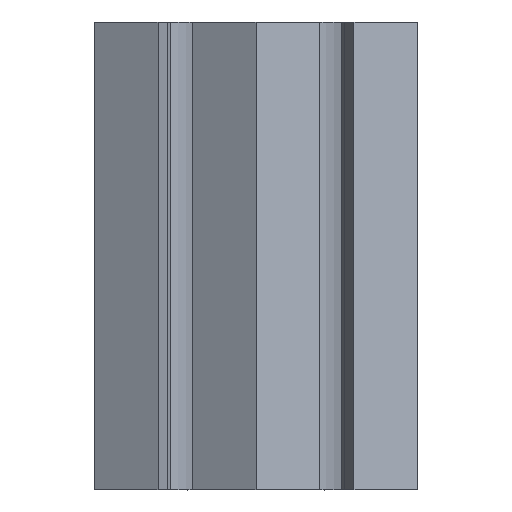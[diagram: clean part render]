
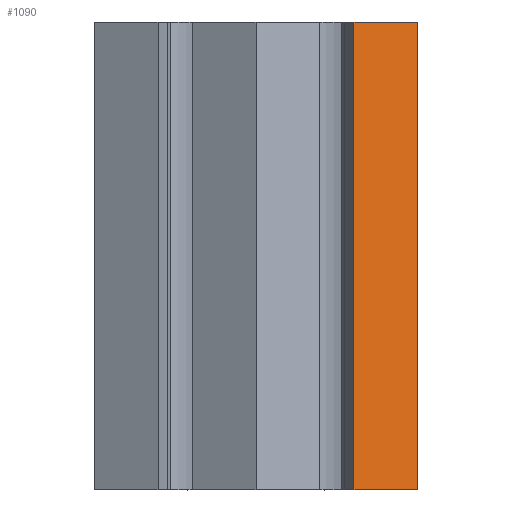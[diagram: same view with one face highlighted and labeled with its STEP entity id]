
A CAD part, top view. The second image highlights one B-rep face of the part: STEP entity #1090.
In plain terms, the highlighted planar face has unit normal (0.5, 0, 0.866).
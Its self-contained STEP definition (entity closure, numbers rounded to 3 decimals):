
#66=LINE('',#1622,#196);
#82=LINE('',#1683,#212);
#115=LINE('',#1760,#245);
#118=LINE('',#1765,#248);
#196=VECTOR('',#1291,1000.);
#212=VECTOR('',#1337,1000.);
#245=VECTOR('',#1384,1000.);
#248=VECTOR('',#1391,1000.);
#410=ORIENTED_EDGE('',*,*,#650,.F.);
#411=ORIENTED_EDGE('',*,*,#722,.T.);
#412=ORIENTED_EDGE('',*,*,#680,.T.);
#413=ORIENTED_EDGE('',*,*,#719,.T.);
#650=EDGE_CURVE('',#808,#809,#66,.T.);
#680=EDGE_CURVE('',#839,#838,#82,.T.);
#719=EDGE_CURVE('',#838,#809,#115,.T.);
#722=EDGE_CURVE('',#808,#839,#118,.T.);
#808=VERTEX_POINT('',#1621);
#809=VERTEX_POINT('',#1623);
#838=VERTEX_POINT('',#1682);
#839=VERTEX_POINT('',#1684);
#918=EDGE_LOOP('',(#410,#411,#412,#413));
#988=FACE_BOUND('',#918,.T.);
#1048=PLANE('',#1187);
#1090=ADVANCED_FACE('',(#988),#1048,.T.);
#1187=AXIS2_PLACEMENT_3D('',#1764,#1389,#1390);
#1291=DIRECTION('',(0.866,0.,-0.5));
#1337=DIRECTION('',(0.866,0.,-0.5));
#1384=DIRECTION('',(0.,1.,0.));
#1389=DIRECTION('',(0.5,0.,0.866));
#1390=DIRECTION('',(0.866,0.,-0.5));
#1391=DIRECTION('',(0.,-1.,0.));
#1621=CARTESIAN_POINT('',(20.958,50.,34.088));
#1622=CARTESIAN_POINT('',(0.,50.,46.188));
#1623=CARTESIAN_POINT('',(34.641,50.,26.188));
#1682=CARTESIAN_POINT('',(34.641,-50.,26.188));
#1683=CARTESIAN_POINT('',(0.,-50.,46.188));
#1684=CARTESIAN_POINT('',(20.958,-50.,34.088));
#1760=CARTESIAN_POINT('',(34.641,-50.,26.188));
#1764=CARTESIAN_POINT('',(0.,-50.,46.188));
#1765=CARTESIAN_POINT('',(20.958,-50.,34.088));
